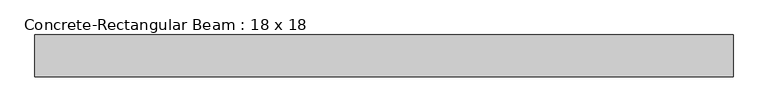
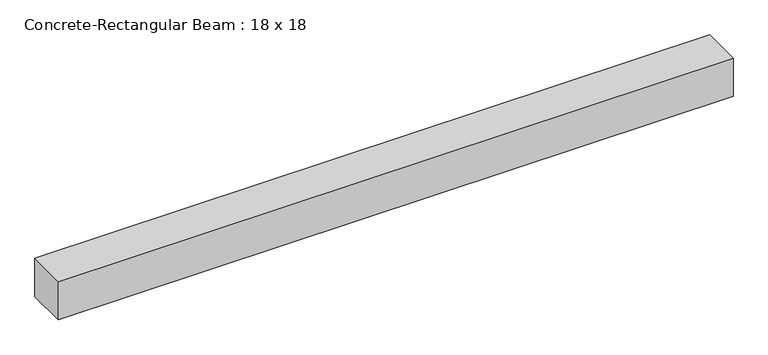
"""IFC4 building model written with IfcOpenShell, lengths in millimetres: beam geometry, Concrete-Rectangular Beam : 18 x 18."""

from ifc_helpers import new_model, si_unit, frame, origin, place, context, project, spatial, polyline, outline, extrude, source, transform, mapped, element, save


def concrete_rectangular_beam_18_x_18_bf4eecd6(model_context):
    return source(origin(), model_context, "Body", "SweptSolid", [
        extrude(outline(polyline([(3810.0, 228.6), (3810.0, -228.6), (-3810.0, -228.6), (-3810.0, 228.6), (3810.0, 228.6)])), frame((0.0, 0.0, -228.6), z_axis=(0.0, 0.0, 1.0), x_axis=(1.0, 0.0, 0.0)), (0.0, 0.0, 1.0), 457.2),
    ])


if __name__ == "__main__":
    model = new_model("IFC4")
    model_context = context("Model", 3, world=origin())
    ifc_project = project(units=[si_unit("LENGTHUNIT", "METRE", prefix="MILLI")], contexts=[model_context])
    site = spatial("IfcSite", under=ifc_project)
    building = spatial("IfcBuilding", under=site)
    placement = place(None, origin())
    concrete_rectangular_beam_18_x_18_shape = concrete_rectangular_beam_18_x_18_bf4eecd6(model_context)
    element("IfcBeam", 1, ObjectType="Concrete-Rectangular Beam : 18 x 18", at=placement, inside=building, context=model_context, shape_type="MappedRepresentation", body=[
        mapped(concrete_rectangular_beam_18_x_18_shape, transform((0.0, 0.0, 0.0), x_axis=(1.0, 0.0, 0.0), y_axis=(0.0, 1.0, 0.0), z_axis=(0.0, 0.0, 1.0))),
    ])
    save(model, "model.ifc")
